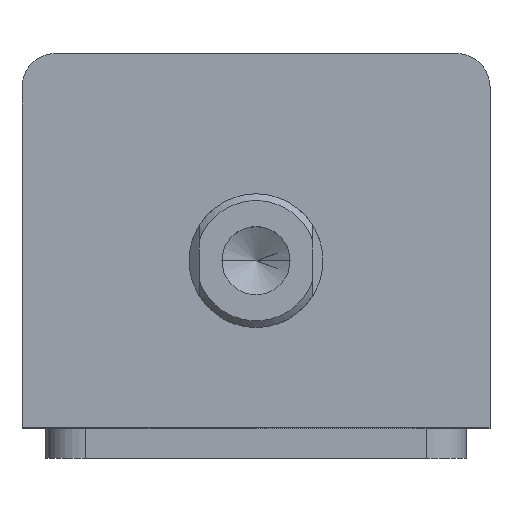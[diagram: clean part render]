
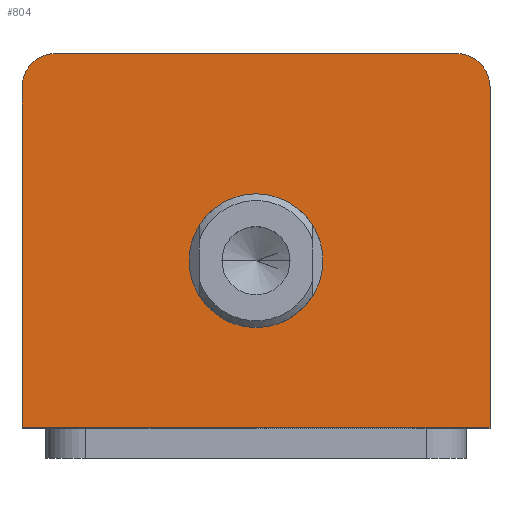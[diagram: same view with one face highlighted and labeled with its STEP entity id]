
A CAD part, top view. The second image highlights one B-rep face of the part: STEP entity #804.
In plain terms, the highlighted planar face has unit normal (0, 0, 1).
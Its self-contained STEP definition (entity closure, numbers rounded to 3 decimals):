
#265 = LINE ( 'NONE', #2647, #284 ) ;
#284 = VECTOR ( 'NONE', #2655, 1000. ) ;
#306 = LINE ( 'NONE', #2610, #308 ) ;
#308 = VECTOR ( 'NONE', #2612, 1000. ) ;
#342 = CIRCLE ( 'NONE', #2400, 5. ) ;
#347 = CIRCLE ( 'NONE', #2399, 10. ) ;
#706 = CARTESIAN_POINT ( 'NONE',  ( -35., 28., 89. ) ) ;
#712 = DIRECTION ( 'NONE',  ( -1., 0., 0. ) ) ;
#804 = ADVANCED_FACE ( 'NONE', ( #1244, #1247 ), #1624, .T. ) ;
#884 = CARTESIAN_POINT ( 'NONE',  ( 10., -3., 89. ) ) ;
#1012 = DIRECTION ( 'NONE',  ( 1., 0., 0. ) ) ;
#1037 = VERTEX_POINT ( 'NONE', #1591 ) ;
#1042 = VERTEX_POINT ( 'NONE', #1586 ) ;
#1049 = VERTEX_POINT ( 'NONE', #1573 ) ;
#1061 = VERTEX_POINT ( 'NONE', #1556 ) ;
#1066 = VERTEX_POINT ( 'NONE', #1548 ) ;
#1075 = VERTEX_POINT ( 'NONE', #1537 ) ;
#1106 = VERTEX_POINT ( 'NONE', #1495 ) ;
#1155 = EDGE_LOOP ( 'NONE', ( #2063, #2080 ) ) ;
#1164 = EDGE_LOOP ( 'NONE', ( #2076, #2075, #2078, #2077, #2079, #2111 ) ) ;
#1244 = FACE_BOUND ( 'NONE', #1155, .T. ) ;
#1247 = FACE_OUTER_BOUND ( 'NONE', #1164, .T. ) ;
#1368 = EDGE_CURVE ( 'NONE', #1061, #1106, #2930, .T. ) ;
#1421 = EDGE_CURVE ( 'NONE', #1042, #1037, #2998, .T. ) ;
#1495 = CARTESIAN_POINT ( 'NONE',  ( -30., 28., 89. ) ) ;
#1537 = CARTESIAN_POINT ( 'NONE',  ( 35., 23., 89. ) ) ;
#1548 = CARTESIAN_POINT ( 'NONE',  ( -35., 23., 89. ) ) ;
#1556 = CARTESIAN_POINT ( 'NONE',  ( 30., 28., 89. ) ) ;
#1573 = CARTESIAN_POINT ( 'NONE',  ( -10., -3., 89. ) ) ;
#1586 = CARTESIAN_POINT ( 'NONE',  ( -35., -28., 89. ) ) ;
#1591 = CARTESIAN_POINT ( 'NONE',  ( 35., -28., 89. ) ) ;
#1613 = DIRECTION ( 'NONE',  ( 1., 0., 0. ) ) ;
#1616 = DIRECTION ( 'NONE',  ( 0., 0., 1. ) ) ;
#1624 = PLANE ( 'NONE',  #1951 ) ;
#1643 = CARTESIAN_POINT ( 'NONE',  ( 0., 0., 89. ) ) ;
#1930 = EDGE_CURVE ( 'NONE', #1106, #1066, #3025, .T. ) ;
#1951 = AXIS2_PLACEMENT_3D ( 'NONE', #1643, #1616, #1613 ) ;
#1976 = EDGE_CURVE ( 'NONE', #2339, #1049, #3051, .T. ) ;
#2008 = EDGE_CURVE ( 'NONE', #1066, #1042, #265, .T. ) ;
#2022 = EDGE_CURVE ( 'NONE', #1037, #1075, #306, .T. ) ;
#2044 = EDGE_CURVE ( 'NONE', #1075, #1061, #342, .T. ) ;
#2046 = EDGE_CURVE ( 'NONE', #1049, #2339, #347, .T. ) ;
#2063 = ORIENTED_EDGE ( 'NONE', *, *, #1976, .F. ) ;
#2075 = ORIENTED_EDGE ( 'NONE', *, *, #2044, .T. ) ;
#2076 = ORIENTED_EDGE ( 'NONE', *, *, #2022, .T. ) ;
#2077 = ORIENTED_EDGE ( 'NONE', *, *, #1930, .T. ) ;
#2078 = ORIENTED_EDGE ( 'NONE', *, *, #1368, .T. ) ;
#2079 = ORIENTED_EDGE ( 'NONE', *, *, #2008, .T. ) ;
#2080 = ORIENTED_EDGE ( 'NONE', *, *, #2046, .F. ) ;
#2111 = ORIENTED_EDGE ( 'NONE', *, *, #1421, .T. ) ;
#2339 = VERTEX_POINT ( 'NONE', #884 ) ;
#2399 = AXIS2_PLACEMENT_3D ( 'NONE', #2527, #2560, #1012 ) ;
#2400 = AXIS2_PLACEMENT_3D ( 'NONE', #2536, #2535, #2533 ) ;
#2425 = AXIS2_PLACEMENT_3D ( 'NONE', #2752, #2780, #2749 ) ;
#2435 = AXIS2_PLACEMENT_3D ( 'NONE', #2695, #2696, #2783 ) ;
#2527 = CARTESIAN_POINT ( 'NONE',  ( 0., -3., 89. ) ) ;
#2533 = DIRECTION ( 'NONE',  ( 1., 0., 0. ) ) ;
#2535 = DIRECTION ( 'NONE',  ( 0., 0., 1. ) ) ;
#2536 = CARTESIAN_POINT ( 'NONE',  ( 30., 23., 89. ) ) ;
#2560 = DIRECTION ( 'NONE',  ( 0., 0., 1. ) ) ;
#2577 = CARTESIAN_POINT ( 'NONE',  ( -35., -28., 89. ) ) ;
#2588 = DIRECTION ( 'NONE',  ( 1., 0., 0. ) ) ;
#2610 = CARTESIAN_POINT ( 'NONE',  ( 35., 28., 89. ) ) ;
#2612 = DIRECTION ( 'NONE',  ( 0., 1., 0. ) ) ;
#2647 = CARTESIAN_POINT ( 'NONE',  ( -35., 28., 89. ) ) ;
#2655 = DIRECTION ( 'NONE',  ( 0., -1., 0. ) ) ;
#2695 = CARTESIAN_POINT ( 'NONE',  ( -30., 23., 89. ) ) ;
#2696 = DIRECTION ( 'NONE',  ( 0., 0., 1. ) ) ;
#2749 = DIRECTION ( 'NONE',  ( 1., 0., 0. ) ) ;
#2752 = CARTESIAN_POINT ( 'NONE',  ( 0., -3., 89. ) ) ;
#2780 = DIRECTION ( 'NONE',  ( 0., 0., 1. ) ) ;
#2783 = DIRECTION ( 'NONE',  ( 1., 0., 0. ) ) ;
#2930 = LINE ( 'NONE', #706, #2932 ) ;
#2932 = VECTOR ( 'NONE', #712, 1000. ) ;
#2998 = LINE ( 'NONE', #2577, #3000 ) ;
#3000 = VECTOR ( 'NONE', #2588, 1000. ) ;
#3025 = CIRCLE ( 'NONE', #2435, 5. ) ;
#3051 = CIRCLE ( 'NONE', #2425, 10. ) ;
